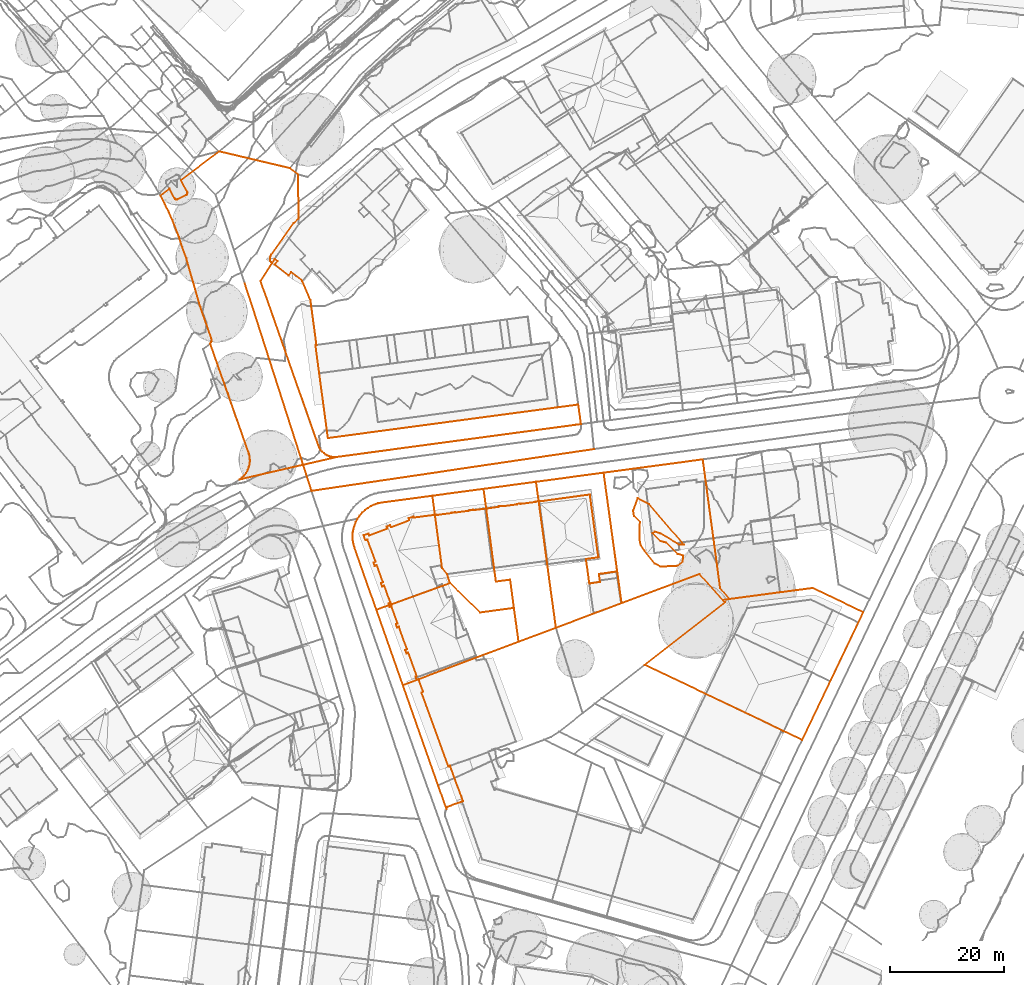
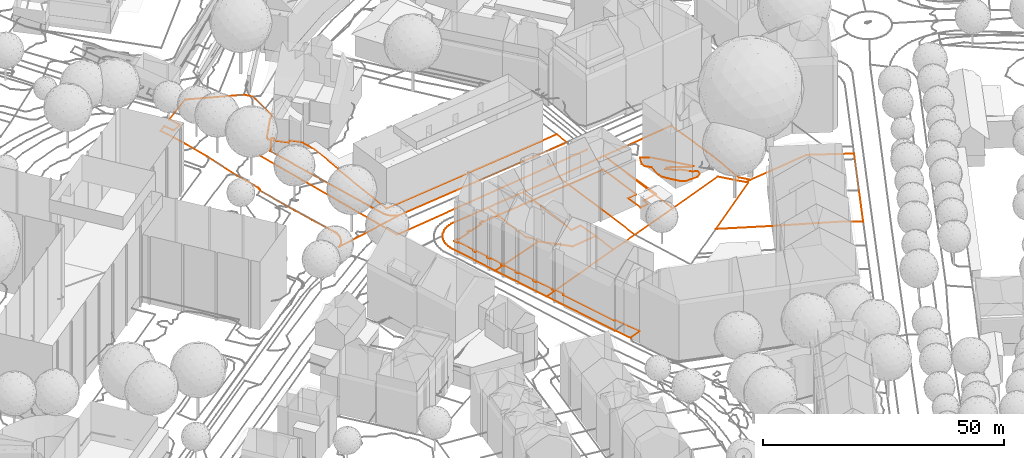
# Not in any storey, part 187 of 494: 13 proxies.
"""IFC2X3 model written with IfcOpenShell, lengths in metres."""

from ifc_helpers import new_model, entity, si_unit, frame, origin_with_axes, place, context, subcontext, project, element, save


model = new_model("IFC2X3")

# Units and contexts
model_context = context("Model", 3, precision=1e-05, world=origin_with_axes())
body_context = subcontext(model_context, "Body", "Model", "MODEL_VIEW")
ifc_project = project(units=[si_unit("AREAUNIT", "SQUARE_METRE"), si_unit("LENGTHUNIT", "METRE")], contexts=[model_context])

# Proxies
proxy_1_placement = place(None, frame((462.358732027, 172.6317378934, 502.819), z_axis=(0.0, 0.0, 1.0), x_axis=(1.0, 0.0, 0.0)))
element("IfcBuildingElementProxy", 1, at=proxy_1_placement, Name="Road 162", ObjectType="NOTDEFINED", context=body_context, shape_type="GeometricCurveSet", body=[
    entity("IfcGeometricCurveSet", [entity("IfcPolyline", [entity("IfcCartesianPoint", [0.0, 0.0, 0.0]), entity("IfcCartesianPoint", [49.6329999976, 7.3419997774, -0.313])])]),
])
proxy_2_placement = place(None, frame((450.5677320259, 209.2797367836, 504.808), z_axis=(0.0, 0.0, 1.0), x_axis=(1.0, 0.0, 0.0)))
element("IfcBuildingElementProxy", 2, at=proxy_2_placement, Name="Road 190", ObjectType="NOTDEFINED", context=body_context, shape_type="GeometricCurveSet", body=[
    entity("IfcGeometricCurveSet", [entity("IfcPolyline", [entity("IfcCartesianPoint", [0.0, 0.0, 0.0]), entity("IfcCartesianPoint", [11.7910000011, -36.6479988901, -1.989])])]),
])
proxy_3_placement = place(None, frame((453.3807320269, 209.5427160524, 504.7063221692), z_axis=(0.0, 0.0, 1.0), x_axis=(1.0, 0.0, 0.0)))
element("IfcBuildingElementProxy", 3, at=proxy_3_placement, Name="Roads Outline 73", ObjectType="NOTDEFINED", context=body_context, shape_type="GeometricCurveSet", body=[
    entity("IfcGeometricCurveSet", [entity("IfcPolyline", [entity("IfcCartesianPoint", [0.0, 0.0, 0.0]), entity("IfcCartesianPoint", [1.9939999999, 3.1070000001, 0.1256561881]), entity("IfcCartesianPoint", [2.4639999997, 3.8400000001, 0.1304589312]), entity("IfcCartesianPoint", [2.9509999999, 3.4410000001, 0.095657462]), entity("IfcCartesianPoint", [2.4669999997, 2.855, 0.0961676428]), entity("IfcCartesianPoint", [4.9169999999, 0.9280000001, -0.0836188]), entity("IfcCartesianPoint", [5.3869999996, 1.5260000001, -0.0827119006]), entity("IfcCartesianPoint", [7.344, -0.013, -0.2283625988]), entity("IfcCartesianPoint", [8.7609999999, -3.3489999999, -0.6400598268]), entity("IfcCartesianPoint", [9.8289999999, -11.2689999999, -1.2070490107]), entity("IfcCartesianPoint", [9.6499999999, -11.2930000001, -1.2032401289]), entity("IfcCartesianPoint", [11.8389999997, -27.6299999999, -1.8888219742]), entity("IfcCartesianPoint", [52.2760000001, -22.2169999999, -2.1267073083]), entity("IfcCartesianPoint", [55.855, -21.7379999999, -2.0981150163]), entity("IfcCartesianPoint", [56.3249999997, -25.176, -2.2050651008]), entity("IfcCartesianPoint", [55.4699999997, -25.291, -2.2174662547]), entity("IfcCartesianPoint", [30.0979999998, -28.7069999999, -2.0059803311]), entity("IfcCartesianPoint", [13.4199999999, -30.9509999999, -1.9028906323]), entity("IfcCartesianPoint", [13.0129999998, -30.9779999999, -1.8968056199]), entity("IfcCartesianPoint", [12.6059999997, -30.949, -1.8824767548]), entity("IfcCartesianPoint", [12.2069999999, -30.865, -1.8621369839]), entity("IfcCartesianPoint", [11.8219999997, -30.7290000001, -1.8418408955]), entity("IfcCartesianPoint", [11.46, -30.541, -1.8173063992]), entity("IfcCartesianPoint", [11.1259999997, -30.3059999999, -1.7912716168]), entity("IfcCartesianPoint", [10.827, -30.0279999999, -1.7642444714]), entity("IfcCartesianPoint", [10.568, -29.713, -1.7573956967]), entity("IfcCartesianPoint", [10.3539999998, -29.365, -1.7543245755]), entity("IfcCartesianPoint", [10.1899999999, -28.9909999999, -1.7367296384]), entity("IfcCartesianPoint", [9.807, -27.8999999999, -1.6762448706]), entity("IfcCartesianPoint", [2.2199999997, -6.301, -0.4264981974]), entity("IfcCartesianPoint", [0.0, 0.0, 0.0])])]),
])
proxy_4_placement = place(None, frame((469.5587320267, 164.6087160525, 502.6723636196), z_axis=(0.0, 0.0, 1.0), x_axis=(1.0, 0.0, 0.0)))
element("IfcBuildingElementProxy", 4, at=proxy_4_placement, Name="Roads Outline 124", ObjectType="NOTDEFINED", context=body_context, shape_type="GeometricCurveSet", body=[
    entity("IfcGeometricCurveSet", [entity("IfcPolyline", [entity("IfcCartesianPoint", [0.3319999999, -1.9370000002, -0.0261911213]), entity("IfcCartesianPoint", [0.1499999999, -1.3050000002, -0.0211173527]), entity("IfcCartesianPoint", [0.0389999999, -0.656, -0.0157066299]), entity("IfcCartesianPoint", [0.0, 0.0, 0.0]), entity("IfcCartesianPoint", [0.0320000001, 0.6569999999, 0.0219089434]), entity("IfcCartesianPoint", [0.1359999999, 1.307, 0.044104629]), entity("IfcCartesianPoint", [0.3110000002, 1.9409999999, 0.0722247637]), entity("IfcCartesianPoint", [0.554, 2.5519999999, 0.0823953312]), entity("IfcCartesianPoint", [0.8620000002, 3.1329999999, 0.0780702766]), entity("IfcCartesianPoint", [1.2379999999, 3.6839999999, 0.0678239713]), entity("IfcCartesianPoint", [1.6719999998, 4.189, 0.079207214]), entity("IfcCartesianPoint", [2.1600000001, 4.6429999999, 0.1172548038]), entity("IfcCartesianPoint", [2.6949999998, 5.04, 0.1460648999]), entity("IfcCartesianPoint", [3.2710000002, 5.3759999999, 0.1431471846]), entity("IfcCartesianPoint", [3.8810000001, 5.645, 0.1394918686]), entity("IfcCartesianPoint", [4.517, 5.845, 0.136038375]), entity("IfcCartesianPoint", [5.1710000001, 5.973, 0.1343980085]), entity("IfcCartesianPoint", [14.0299999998, 7.1629999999, 0.1014481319]), entity("IfcCartesianPoint", [23.0290000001, 8.3729999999, 0.0641177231]), entity("IfcCartesianPoint", [32.2480000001, 9.6139999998, 0.0109480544]), entity("IfcCartesianPoint", [44.1260000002, 11.2139999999, 0.1710464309]), entity("IfcCartesianPoint", [44.6540000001, 7.388, 0.0711498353]), entity("IfcCartesianPoint", [44.6579999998, 7.3589999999, 0.0715601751]), entity("IfcCartesianPoint", [46.5189999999, -6.1400000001, 0.2319731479]), entity("IfcCartesianPoint", [43.2990000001, -6.584, -0.0811795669]), entity("IfcCartesianPoint", [43.5010000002, -7.9910000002, -0.1553223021]), entity("IfcCartesianPoint", [41.6179999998, -8.2620000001, -0.1706678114]), entity("IfcCartesianPoint", [41.0240000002, -3.952, -0.2284783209]), entity("IfcCartesianPoint", [43.1949999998, -3.6570000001, -0.2198172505]), entity("IfcCartesianPoint", [41.7030000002, 7.3829999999, -0.1010707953]), entity("IfcCartesianPoint", [33.0070000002, 6.1839999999, -0.0295043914]), entity("IfcCartesianPoint", [32.9959999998, 6.264, -0.0297852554]), entity("IfcCartesianPoint", [32.7089999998, 6.2239999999, -0.0277475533]), entity("IfcCartesianPoint", [32.1239999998, 6.149, -0.0181783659]), entity("IfcCartesianPoint", [32.1349999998, 6.0689999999, -0.0174580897]), entity("IfcCartesianPoint", [29.5460000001, 5.727, 0.0904996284]), entity("IfcCartesianPoint", [29.5359999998, 5.8059999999, 0.0921595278]), entity("IfcCartesianPoint", [28.932, 5.726, 0.0677763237]), entity("IfcCartesianPoint", [28.9419999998, 5.6469999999, 0.0661192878]), entity("IfcCartesianPoint", [26.4049999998, 5.311, 0.0237884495]), entity("IfcCartesianPoint", [26.395, 5.3899999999, 0.0256490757]), entity("IfcCartesianPoint", [25.77, 5.307, 0.0284070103]), entity("IfcCartesianPoint", [25.7799999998, 5.2279999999, 0.026546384]), entity("IfcCartesianPoint", [23.4900000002, 4.9039999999, 0.0468456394]), entity("IfcCartesianPoint", [21.1800000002, 4.6189999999, 0.0289938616]), entity("IfcCartesianPoint", [21.1699999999, 4.6979999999, 0.0306465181]), entity("IfcCartesianPoint", [20.5449999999, 4.615, 0.0310401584]), entity("IfcCartesianPoint", [20.5550000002, 4.5359999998, 0.0291153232]), entity("IfcCartesianPoint", [18.0, 4.1979999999, 0.047814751]), entity("IfcCartesianPoint", [17.9890000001, 4.277, 0.0492596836]), entity("IfcCartesianPoint", [17.3640000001, 4.1939999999, 0.0376280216]), entity("IfcCartesianPoint", [17.3739999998, 4.115, 0.0361381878]), entity("IfcCartesianPoint", [14.8169999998, 3.7759999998, 0.0399817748]), entity("IfcCartesianPoint", [14.807, 3.855, 0.042619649]), entity("IfcCartesianPoint", [14.4789999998, 3.8119999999, 0.0467001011]), entity("IfcCartesianPoint", [10.7429999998, 3.317, 0.0565326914]), entity("IfcCartesianPoint", [10.682, 3.5179999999, 0.0641525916]), entity("IfcCartesianPoint", [9.838, 3.199, 0.0395894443]), entity("IfcCartesianPoint", [9.9700000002, 2.848, 0.0298407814]), entity("IfcCartesianPoint", [6.7429999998, 1.6299999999, 0.0740863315]), entity("IfcCartesianPoint", [6.611, 1.9809999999, 0.0869099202]), entity("IfcCartesianPoint", [6.0120000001, 1.7549999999, 0.0915891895]), entity("IfcCartesianPoint", [6.1439999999, 1.4039999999, 0.0787617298]), entity("IfcCartesianPoint", [2.9169999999, 0.1850000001, 0.0905818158]), entity("IfcCartesianPoint", [2.784, 0.5359999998, 0.1022453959]), entity("IfcCartesianPoint", [1.9339999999, 0.2149999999, 0.0600805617]), entity("IfcCartesianPoint", [2.2420000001, -0.6330000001, 0.0586928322]), entity("IfcCartesianPoint", [2.6090000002, -0.4990000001, 0.0757825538]), entity("IfcCartesianPoint", [4.0440000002, -4.4470000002, -0.0738280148]), entity("IfcCartesianPoint", [3.6779999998, -4.5800000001, -0.0696418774]), entity("IfcCartesianPoint", [3.8900000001, -5.1629999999, -0.0715661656]), entity("IfcCartesianPoint", [4.2560000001, -5.03, -0.0793668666]), entity("IfcCartesianPoint", [5.3530000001, -8.047, -0.0686766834]), entity("IfcCartesianPoint", [4.9870000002, -8.1800000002, -0.0605836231]), entity("IfcCartesianPoint", [5.202, -8.7720000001, -0.0519659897]), entity("IfcCartesianPoint", [5.5690000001, -8.639, -0.0595674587]), entity("IfcCartesianPoint", [6.659, -11.6370000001, -0.2319727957]), entity("IfcCartesianPoint", [6.2919999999, -11.77, -0.2305701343]), entity("IfcCartesianPoint", [6.4020000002, -12.0730000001, -0.2421763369]), entity("IfcCartesianPoint", [6.5070000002, -12.362, -0.2422369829]), entity("IfcCartesianPoint", [6.8169999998, -12.2490000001, -0.243490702]), entity("IfcCartesianPoint", [7.9180000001, -15.2750000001, -0.283399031]), entity("IfcCartesianPoint", [7.608, -15.388, -0.2841883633]), entity("IfcCartesianPoint", [7.8199999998, -15.9710000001, -0.3012674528]), entity("IfcCartesianPoint", [8.1299999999, -15.858, -0.3004359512]), entity("IfcCartesianPoint", [9.5660000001, -19.8090000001, -0.2853481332]), entity("IfcCartesianPoint", [9.2590000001, -19.9210000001, -0.2878133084]), entity("IfcCartesianPoint", [9.4819999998, -20.544, -0.3027872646]), entity("IfcCartesianPoint", [9.7919999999, -20.4310000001, -0.2989393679]), entity("IfcCartesianPoint", [11.2880000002, -24.5390000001, -0.3297951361]), entity("IfcCartesianPoint", [11.0780000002, -24.618, -0.3345415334]), entity("IfcCartesianPoint", [11.29, -25.2010000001, -0.3259507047]), entity("IfcCartesianPoint", [11.5989999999, -25.0860000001, -0.3186921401]), entity("IfcCartesianPoint", [12.3999999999, -27.284, -0.3625339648]), entity("IfcCartesianPoint", [12.1000000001, -27.3940000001, -0.3552436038]), entity("IfcCartesianPoint", [16.8489999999, -40.4040000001, -0.6179314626]), entity("IfcCartesianPoint", [17.1320000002, -40.3050000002, -0.6199954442]), entity("IfcCartesianPoint", [17.9160000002, -42.4399999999, -0.6017945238]), entity("IfcCartesianPoint", [19.4139999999, -46.5180000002, -0.3999803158]), entity("IfcCartesianPoint", [19.2349999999, -46.5790000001, -0.3997948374]), entity("IfcCartesianPoint", [16.5890000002, -47.5280000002, -0.4460212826]), entity("IfcCartesianPoint", [16.517, -47.925, -0.4575768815]), entity("IfcCartesianPoint", [15.048, -43.7510000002, -0.4759334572]), entity("IfcCartesianPoint", [8.8420000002, -26.118, -0.3751443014]), entity("IfcCartesianPoint", [4.182, -12.8770000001, -0.2351152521]), entity("IfcCartesianPoint", [0.3319999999, -1.9370000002, -0.0261911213])])]),
])
proxy_5_placement = place(None, frame((435.7777320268, 224.5667160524, 506.8678124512), z_axis=(0.0, 0.0, 1.0), x_axis=(1.0, 0.0, 0.0)))
element("IfcBuildingElementProxy", 5, at=proxy_5_placement, Name="Roads Outline 133", ObjectType="NOTDEFINED", context=body_context, shape_type="GeometricCurveSet", body=[
    entity("IfcGeometricCurveSet", [entity("IfcPolyline", [entity("IfcCartesianPoint", [0.0, 0.0, 0.0]), entity("IfcCartesianPoint", [1.574, 1.1800000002, -0.0753440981]), entity("IfcCartesianPoint", [2.5040000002, -0.513, -0.2804932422]), entity("IfcCartesianPoint", [2.6030000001, -0.6369999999, -0.2849304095]), entity("IfcCartesianPoint", [2.7429999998, -0.7119999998, -0.2918651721]), entity("IfcCartesianPoint", [2.9010000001, -0.727, -0.2989610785]), entity("IfcCartesianPoint", [3.0520000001, -0.679, -0.3028852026]), entity("IfcCartesianPoint", [4.5249999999, 0.088, -0.3384772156]), entity("IfcCartesianPoint", [4.6469999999, 0.186, -0.3301687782]), entity("IfcCartesianPoint", [4.7229999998, 0.3230000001, -0.3164536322]), entity("IfcCartesianPoint", [4.7399999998, 0.4790000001, -0.2990198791]), entity("IfcCartesianPoint", [4.6970000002, 0.6290000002, -0.2788312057]), entity("IfcCartesianPoint", [3.6230000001, 2.7150000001, 0.0078996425]), entity("IfcCartesianPoint", [10.3229999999, 7.736, -0.3838962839]), entity("IfcCartesianPoint", [20.9249999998, 5.2110000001, -1.5080948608]), entity("IfcCartesianPoint", [22.7510000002, 4.7760000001, -1.7125989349]), entity("IfcCartesianPoint", [24.1710000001, 3.666, -2.0259136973]), entity("IfcCartesianPoint", [24.1919999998, 2.5420000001, -2.0109813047]), entity("IfcCartesianPoint", [24.3139999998, -4.0499999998, -2.1515177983]), entity("IfcCartesianPoint", [23.3810000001, -4.899, -2.1660626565]), entity("IfcCartesianPoint", [19.4950000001, -10.402, -1.9807447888]), entity("IfcCartesianPoint", [19.3459999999, -10.6369999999, -1.9803013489]), entity("IfcCartesianPoint", [19.2599999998, -10.902, -1.9829362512]), entity("IfcCartesianPoint", [19.2439999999, -11.1799999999, -1.9927741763]), entity("IfcCartesianPoint", [19.298, -11.453, -2.0050310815]), entity("IfcCartesianPoint", [19.4180000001, -11.7039999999, -2.0201403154]), entity("IfcCartesianPoint", [19.5970000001, -11.9169999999, -2.0358340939]), entity("IfcCartesianPoint", [17.6030000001, -15.024, -2.161490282]), entity("IfcCartesianPoint", [19.8229999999, -21.325, -2.5879884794]), entity("IfcCartesianPoint", [27.4100000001, -42.9239999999, -3.8377351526]), entity("IfcCartesianPoint", [27.7930000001, -44.0149999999, -3.8982199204]), entity("IfcCartesianPoint", [27.9569999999, -44.389, -3.9158148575]), entity("IfcCartesianPoint", [28.1710000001, -44.737, -3.9188859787]), entity("IfcCartesianPoint", [28.4300000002, -45.0519999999, -3.9257347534]), entity("IfcCartesianPoint", [28.7289999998, -45.3299999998, -3.9527618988]), entity("IfcCartesianPoint", [29.0630000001, -45.5649999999, -3.9787966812]), entity("IfcCartesianPoint", [29.4249999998, -45.753, -4.0033311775]), entity("IfcCartesianPoint", [29.8100000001, -45.889, -4.0236272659]), entity("IfcCartesianPoint", [30.2089999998, -45.973, -4.0439670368]), entity("IfcCartesianPoint", [30.6159999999, -46.0019999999, -4.0582959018]), entity("IfcCartesianPoint", [31.023, -45.9749999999, -4.0643809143]), entity("IfcCartesianPoint", [13.8760000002, -49.9449999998, -3.8699005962]), entity("IfcCartesianPoint", [14.3220000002, -49.6159999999, -3.8325243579]), entity("IfcCartesianPoint", [14.7179999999, -49.2289999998, -3.8123769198]), entity("IfcCartesianPoint", [15.0559999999, -48.791, -3.8058150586]), entity("IfcCartesianPoint", [15.3309999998, -48.3099999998, -3.8007632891]), entity("IfcCartesianPoint", [15.537, -47.7959999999, -3.7693880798]), entity("IfcCartesianPoint", [15.6689999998, -47.2579999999, -3.6878566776]), entity("IfcCartesianPoint", [15.7259999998, -46.7069999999, -3.6173345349]), entity("IfcCartesianPoint", [15.719, -46.3049999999, -3.5851284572]), entity("IfcCartesianPoint", [15.673, -45.905, -3.5502077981]), entity("IfcCartesianPoint", [15.5860000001, -45.5119999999, -3.5495806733]), entity("IfcCartesianPoint", [15.5409999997, -45.3629999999, -3.5508741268]), entity("IfcCartesianPoint", [15.4920000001, -45.216, -3.5532168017]), entity("IfcCartesianPoint", [13.4679999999, -39.45, -3.3145639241]), entity("IfcCartesianPoint", [11.9780000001, -35.2049999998, -3.0498226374]), entity("IfcCartesianPoint", [11.858, -34.8629999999, -3.0290631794]), entity("IfcCartesianPoint", [8.7599999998, -26.037, -2.4131551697]), entity("IfcCartesianPoint", [8.9010000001, -25.8159999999, -2.3939161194]), entity("IfcCartesianPoint", [8.9810000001, -25.5659999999, -2.3743381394]), entity("IfcCartesianPoint", [8.9929999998, -25.304, -2.3481829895]), entity("IfcCartesianPoint", [8.9369999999, -25.048, -2.3059849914]), entity("IfcCartesianPoint", [7.0550000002, -19.7379999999, -1.8873036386]), entity("IfcCartesianPoint", [7.0189999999, -19.6359999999, -1.8800892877]), entity("IfcCartesianPoint", [4.6119999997, -11.3129999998, -1.2294646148]), entity("IfcCartesianPoint", [4.5619999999, -11.139, -1.2196751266]), entity("IfcCartesianPoint", [3.2599999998, -7.3329999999, -0.8828962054]), entity("IfcCartesianPoint", [2.7050000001, -5.825, -0.7409835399]), entity("IfcCartesianPoint", [2.1000000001, -4.3369999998, -0.5570818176]), entity("IfcCartesianPoint", [1.4479999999, -2.868, -0.3916074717]), entity("IfcCartesianPoint", [0.747, -1.422, -0.1938795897]), entity("IfcCartesianPoint", [0.0, 0.0, 0.0])])]),
])
proxy_6_placement = place(None, frame((513.6847320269, 175.8227160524, 502.8434100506), z_axis=(0.0, 0.0, 1.0), x_axis=(1.0, 0.0, 0.0)))
element("IfcBuildingElementProxy", 6, at=proxy_6_placement, Name="Cadastre 128", ObjectType="NOTDEFINED", context=body_context, shape_type="GeometricCurveSet", body=[
    entity("IfcGeometricCurveSet", [entity("IfcPolyline", [entity("IfcCartesianPoint", [0.0, 0.0, 0.0]), entity("IfcCartesianPoint", [17.4279999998, 2.3400000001, 0.114957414]), entity("IfcCartesianPoint", [17.9409999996, -1.466, 0.12839753]), entity("IfcCartesianPoint", [19.2999999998, -11.524, 0.2267091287]), entity("IfcCartesianPoint", [20.4789999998, -20.2649999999, -0.2987271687]), entity("IfcCartesianPoint", [22.1689999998, -22.2, -0.3541325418]), entity("IfcCartesianPoint", [20.9589999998, -22.3599999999, -0.3984876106]), entity("IfcCartesianPoint", [16.8489999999, -17.79, -0.3415028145]), entity("IfcCartesianPoint", [3.1609999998, -22.9210000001, -0.470106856]), entity("IfcCartesianPoint", [0.0, 0.0, 0.0])])]),
])
proxy_7_placement = place(None, frame((492.5877320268, 172.9817160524, 502.7364813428), z_axis=(0.0, 0.0, 1.0), x_axis=(1.0, 0.0, 0.0)))
element("IfcBuildingElementProxy", 7, at=proxy_7_placement, Name="Cadastre 134", ObjectType="NOTDEFINED", context=body_context, shape_type="GeometricCurveSet", body=[
    entity("IfcGeometricCurveSet", [entity("IfcPolyline", [entity("IfcCartesianPoint", [0.0, 0.0, 0.0]), entity("IfcCartesianPoint", [9.219, 1.2409999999, -0.0531696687]), entity("IfcCartesianPoint", [9.6799999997, -2.149, -0.0918652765]), entity("IfcCartesianPoint", [11.1829999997, -13.193, -0.1219389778]), entity("IfcCartesianPoint", [12.7089999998, -24.4099999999, -0.3653266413]), entity("IfcCartesianPoint", [6.1499999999, -26.8699999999, -0.3424673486]), entity("IfcCartesianPoint", [5.3399999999, -20.9199999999, -0.2523604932]), entity("IfcCartesianPoint", [4.6699999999, -15.9649999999, -0.3331788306]), entity("IfcCartesianPoint", [2.165, -16.29, -0.4138731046]), entity("IfcCartesianPoint", [1.8369999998, -13.8219999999, -0.1995920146]), entity("IfcCartesianPoint", [0.4610000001, -3.469, -0.0172720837]), entity("IfcCartesianPoint", [0.0, 0.0, 0.0])])]),
])
proxy_8_placement = place(None, frame((473.7407320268, 151.7317160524, 502.4372483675), z_axis=(0.0, 0.0, 1.0), x_axis=(1.0, 0.0, 0.0)))
element("IfcBuildingElementProxy", 8, at=proxy_8_placement, Name="Cadastre 163", ObjectType="NOTDEFINED", context=body_context, shape_type="GeometricCurveSet", body=[
    entity("IfcGeometricCurveSet", [entity("IfcPolyline", [entity("IfcCartesianPoint", [0.0, 0.0, 0.0]), entity("IfcCartesianPoint", [2.3130000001, 0.838, -0.0093374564]), entity("IfcCartesianPoint", [11.5970000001, 4.2, -0.0440435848]), entity("IfcCartesianPoint", [12.923, 4.6799999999, 0.0190475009]), entity("IfcCartesianPoint", [18.2280000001, -0.48, 0.0417653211]), entity("IfcCartesianPoint", [24.1869999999, 0.3300000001, 0.0468724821]), entity("IfcCartesianPoint", [24.997, -5.6199999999, -0.0432343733]), entity("IfcCartesianPoint", [4.6600000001, -13.2409999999, -0.1400290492]), entity("IfcCartesianPoint", [0.0, 0.0, 0.0])])]),
])
proxy_9_placement = place(None, frame((483.5887320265, 171.7717160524, 502.7738117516), z_axis=(0.0, 0.0, 1.0), x_axis=(1.0, 0.0, 0.0)))
element("IfcBuildingElementProxy", 9, at=proxy_9_placement, Name="Cadastre 164", ObjectType="NOTDEFINED", context=body_context, shape_type="GeometricCurveSet", body=[
    entity("IfcGeometricCurveSet", [entity("IfcPolyline", [entity("IfcCartesianPoint", [0.0, 0.0, 0.0]), entity("IfcCartesianPoint", [8.9990000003, 1.21, -0.0373304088]), entity("IfcCartesianPoint", [9.4600000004, -2.2590000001, -0.0546024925]), entity("IfcCartesianPoint", [10.8360000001, -12.612, -0.2369224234]), entity("IfcCartesianPoint", [11.1640000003, -15.0800000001, -0.4512035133]), entity("IfcCartesianPoint", [13.6690000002, -14.7549999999, -0.3705092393]), entity("IfcCartesianPoint", [14.3390000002, -19.71, -0.2896909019]), entity("IfcCartesianPoint", [8.3800000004, -20.52, -0.2947980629]), entity("IfcCartesianPoint", [3.0750000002, -15.3600000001, -0.3175158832]), entity("IfcCartesianPoint", [2.5850000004, -13.77, -0.2928243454]), entity("IfcCartesianPoint", [1.7000000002, -12.6699999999, -0.3591065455]), entity("IfcCartesianPoint", [0.452, -3.3700000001, -0.055390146]), entity("IfcCartesianPoint", [0.0, 0.0, 0.0])])]),
])
proxy_10_placement = place(None, frame((501.8067320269, 174.2227160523, 502.6833116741), z_axis=(0.0, 0.0, 1.0), x_axis=(1.0, 0.0, 0.0)))
element("IfcBuildingElementProxy", 10, at=proxy_10_placement, Name="Cadastre 165", ObjectType="NOTDEFINED", context=body_context, shape_type="GeometricCurveSet", body=[
    entity("IfcGeometricCurveSet", [entity("IfcPolyline", [entity("IfcCartesianPoint", [0.0, 0.0, 0.0]), entity("IfcCartesianPoint", [11.878, 1.6000000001, 0.1600983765]), entity("IfcCartesianPoint", [15.0389999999, -21.321, -0.3100084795]), entity("IfcCartesianPoint", [3.4899999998, -25.6509999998, -0.3121569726]), entity("IfcCartesianPoint", [1.9639999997, -14.4339999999, -0.0687693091]), entity("IfcCartesianPoint", [0.4609999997, -3.3899999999, -0.0386956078]), entity("IfcCartesianPoint", [0.0, 0.0, 0.0])])]),
])
proxy_11_placement = place(None, frame((469.5587320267, 164.6087160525, 502.6723636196), z_axis=(0.0, 0.0, 1.0), x_axis=(1.0, 0.0, 0.0)))
element("IfcBuildingElementProxy", 11, at=proxy_11_placement, Name="Cadastre 166", ObjectType="NOTDEFINED", context=body_context, shape_type="GeometricCurveSet", body=[
    entity("IfcGeometricCurveSet", [entity("IfcPolyline", [entity("IfcCartesianPoint", [0.3319999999, -1.9370000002, -0.0261911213]), entity("IfcCartesianPoint", [0.1499999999, -1.3050000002, -0.0211173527]), entity("IfcCartesianPoint", [0.0389999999, -0.656, -0.0157066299]), entity("IfcCartesianPoint", [0.0, 0.0, 0.0]), entity("IfcCartesianPoint", [0.0320000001, 0.6569999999, 0.0219089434]), entity("IfcCartesianPoint", [0.1359999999, 1.307, 0.044104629]), entity("IfcCartesianPoint", [0.3110000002, 1.9409999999, 0.0722247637]), entity("IfcCartesianPoint", [0.554, 2.5519999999, 0.0823953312]), entity("IfcCartesianPoint", [0.8620000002, 3.1329999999, 0.0780702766]), entity("IfcCartesianPoint", [1.2379999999, 3.6839999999, 0.0678239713]), entity("IfcCartesianPoint", [1.6719999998, 4.189, 0.079207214]), entity("IfcCartesianPoint", [2.1600000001, 4.6429999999, 0.1172548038]), entity("IfcCartesianPoint", [2.6949999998, 5.04, 0.1460648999]), entity("IfcCartesianPoint", [3.2710000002, 5.3759999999, 0.1431471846]), entity("IfcCartesianPoint", [3.8810000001, 5.645, 0.1394918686]), entity("IfcCartesianPoint", [4.517, 5.845, 0.136038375]), entity("IfcCartesianPoint", [5.1710000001, 5.973, 0.1343980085]), entity("IfcCartesianPoint", [14.0299999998, 7.1629999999, 0.1014481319]), entity("IfcCartesianPoint", [14.4819999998, 3.7929999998, 0.0460579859]), entity("IfcCartesianPoint", [15.73, -5.507, -0.2576584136]), entity("IfcCartesianPoint", [16.6150000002, -6.6070000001, -0.1913762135]), entity("IfcCartesianPoint", [17.105, -8.1970000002, -0.2160677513]), entity("IfcCartesianPoint", [15.7790000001, -8.6770000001, -0.2791588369]), entity("IfcCartesianPoint", [6.4950000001, -12.0390000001, -0.2444527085]), entity("IfcCartesianPoint", [4.182, -12.8770000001, -0.2351152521]), entity("IfcCartesianPoint", [0.3319999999, -1.9370000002, -0.0261911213])])]),
])
proxy_12_placement = place(None, frame((520.9057320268, 142.0517160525, 502.3285369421), z_axis=(0.0, 0.0, 1.0), x_axis=(1.0, 0.0, 0.0)))
element("IfcBuildingElementProxy", 12, at=proxy_12_placement, Name="Cadastre 188", ObjectType="NOTDEFINED", context=body_context, shape_type="GeometricCurveSet", body=[
    entity("IfcGeometricCurveSet", [entity("IfcPolyline", [entity("IfcCartesianPoint", [0.0, 0.0, 0.0]), entity("IfcCartesianPoint", [14.1179999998, 10.9909999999, 0.1055977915]), entity("IfcCartesianPoint", [13.7379999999, 11.4110000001, 0.1163854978]), entity("IfcCartesianPoint", [14.9479999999, 11.571, 0.1607405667]), entity("IfcCartesianPoint", [23.787, 12.7509999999, 0.1886298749]), entity("IfcCartesianPoint", [29.486, 13.5009999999, 0.208667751]), entity("IfcCartesianPoint", [38.415, 9.2509999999, -0.0037103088]), entity("IfcCartesianPoint", [27.6570000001, -13.1899999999, 0.1124345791]), entity("IfcCartesianPoint", [24.3449999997, -11.6100000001, 0.4427020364]), entity("IfcCartesianPoint", [10.7310000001, -5.118, 0.1100251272]), entity("IfcCartesianPoint", [0.0, 0.0, 0.0])])]),
])
proxy_13_placement = place(None, frame((518.8822858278, 169.1707160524, 503.0), z_axis=(0.0, 0.0, 1.0), x_axis=(1.0, 0.0, 0.0)))
element("IfcBuildingElementProxy", 13, at=proxy_13_placement, Name="Contour Line 503.0 m", ObjectType="NOTDEFINED", context=body_context, shape_type="GeometricCurveSet", body=[
    entity("IfcGeometricCurveSet", [entity("IfcPolyline", [entity("IfcCartesianPoint", [8.6675119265, -9.0, 0.0]), entity("IfcCartesianPoint", [7.7954461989, -9.7099856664, 0.0]), entity("IfcCartesianPoint", [4.7954461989, -9.8662232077, 0.0]), entity("IfcCartesianPoint", [3.7954461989, -9.2770491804, 0.0]), entity("IfcCartesianPoint", [1.9648879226, -7.0, 0.0]), entity("IfcCartesianPoint", [1.2901351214, -6.0, 0.0]), entity("IfcCartesianPoint", [1.1201425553, -5.0, 0.0]), entity("IfcCartesianPoint", [1.1697478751, -2.0, 0.0]), entity("IfcCartesianPoint", [0.1352711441, -1.0, 0.0]), entity("IfcCartesianPoint", [0.0, 0.0, 0.0]), entity("IfcCartesianPoint", [0.7954461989, 2.1503416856, 0.0]), entity("IfcCartesianPoint", [2.7954461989, 1.1251396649, 0.0]), entity("IfcCartesianPoint", [8.9345120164, -6.0, 0.0]), entity("IfcCartesianPoint", [8.0911451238, -6.0, 0.0]), entity("IfcCartesianPoint", [4.7954461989, -4.0279114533, 0.0]), entity("IfcCartesianPoint", [3.7954461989, -3.7112608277, 0.0]), entity("IfcCartesianPoint", [3.4331273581, -4.0, 0.0]), entity("IfcCartesianPoint", [4.7954461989, -5.3828658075, 0.0]), entity("IfcCartesianPoint", [5.7954461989, -5.6247706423, 0.0]), entity("IfcCartesianPoint", [7.7954461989, -7.6123381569, 0.0]), entity("IfcCartesianPoint", [8.7954461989, -7.9185567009, 0.0]), entity("IfcCartesianPoint", [8.6675119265, -9.0, 0.0])])]),
])

save(model, "model.ifc")
